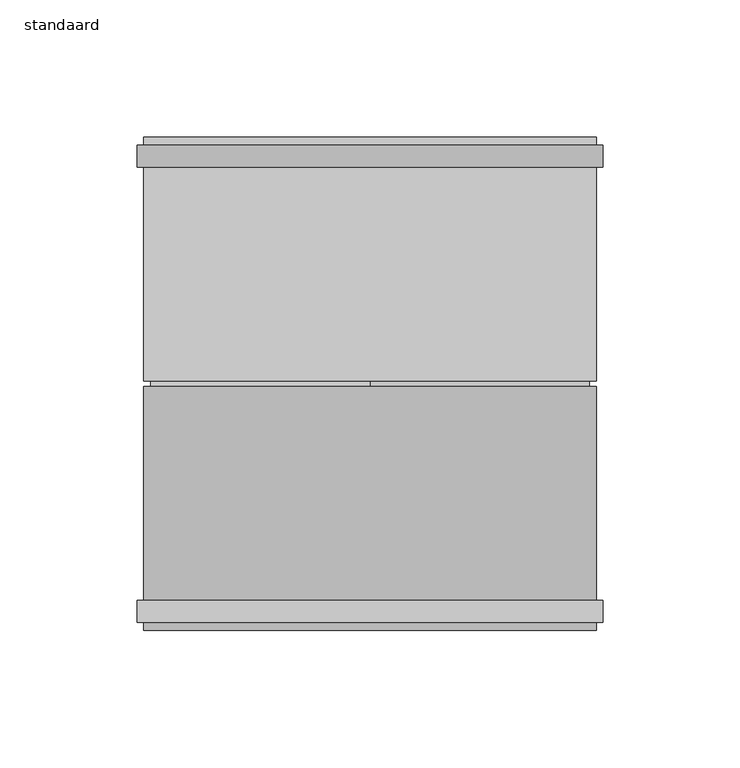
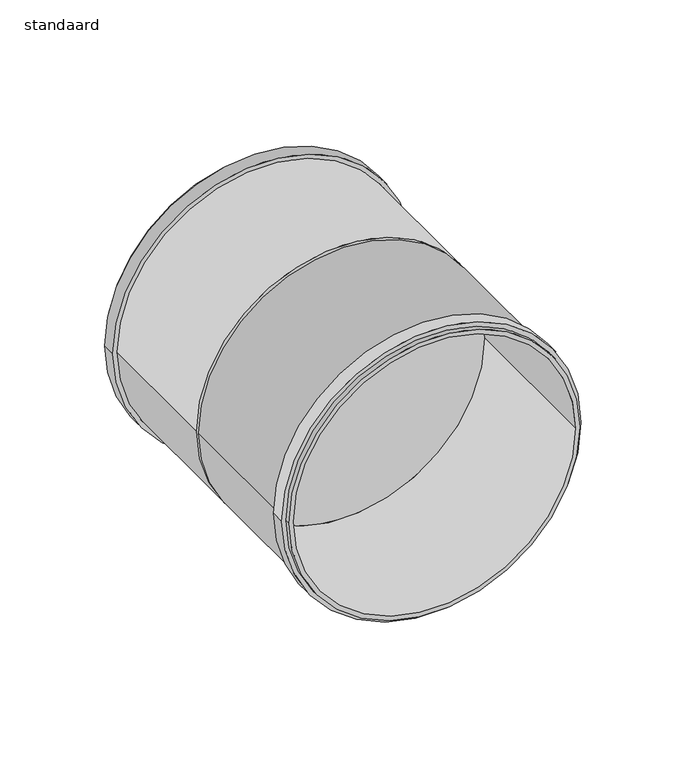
"""IFC4 building model written with IfcOpenShell, lengths in millimetres: pipe fitting geometry, 400_52_Dyka_PP_Dykastil_schuifmof : standaard."""

import ifcopenshell
import ifcopenshell.guid

model = None  # the IFC model being written
_history = None  # IfcOwnerHistory: only IFC2X3 demands one
_inside = {}  # id of a spatial element -> (the spatial element, [elements in it])
_under = {}  # id of a project, library or spatial element -> (it, [spatial elements below it])
_declared = {}  # id of a project -> (the project, [libraries it declares])
_typed = {}  # id of a type object -> (the type object, [elements of that type])
_made_of = {}  # id of a material, layer set ... -> (it, [elements and type objects made of it])


def new_model(schema):
    """Start an empty IFC model of exactly this schema.

    Asked for "IFC4X3", IfcOpenShell would pick the latest addendum, in which some entities
    have other attributes; the version numbers below select the first issue.
    IFC2X3 requires an IfcOwnerHistory on every rooted entity: one is made here for all.
    """
    global model, _history
    if schema == "IFC4X3":
        model = ifcopenshell.file(schema_version=(4, 3, 0, 0))
    else:
        model = ifcopenshell.file(schema=schema)
    _inside.clear()
    _under.clear()
    _declared.clear()
    _typed.clear()
    _made_of.clear()
    _history = None
    if model.schema == "IFC2X3":
        org = make("IfcOrganization", Name="unknown")
        user = make(
            "IfcPersonAndOrganization",
            ThePerson=make("IfcPerson", FamilyName="unknown"),
            TheOrganization=org,
        )
        app = make(
            "IfcApplication",
            ApplicationDeveloper=org,
            Version="unknown",
            ApplicationFullName="unknown",
            ApplicationIdentifier="unknown",
        )
        _history = make(
            "IfcOwnerHistory",
            OwningUser=user,
            OwningApplication=app,
            ChangeAction="ADDED",
            CreationDate=0,
        )
    return model


def make(cls, **values):
    """One entity of the class cls with the attributes given. An attribute that is None is left unset."""
    return model.create_entity(
        cls, **{name: value for name, value in values.items() if value is not None}
    )


def rooted(cls, **values):
    """An entity with a GlobalId (a new one), such as an element, a storey or a relation."""
    return make(cls, GlobalId=ifcopenshell.guid.new(), OwnerHistory=_history, **values)


def si_unit(unit_type, name, prefix=None):
    """IfcSIUnit, for example si_unit("LENGTHUNIT", "METRE", prefix="MILLI")."""
    return make("IfcSIUnit", UnitType=unit_type, Prefix=prefix, Name=name)


def assignment(units):
    """IfcUnitAssignment: the units of a project."""
    return None if units is None else make("IfcUnitAssignment", Units=units)


def point(xyz):
    """IfcCartesianPoint."""
    return None if xyz is None else make("IfcCartesianPoint", Coordinates=xyz)


def direction(xyz):
    """IfcDirection."""
    return None if xyz is None else make("IfcDirection", DirectionRatios=xyz)


def frame(location, z_axis=None, x_axis=None):
    """IfcAxis2Placement3D, a coordinate frame: its origin and axes. An axis left out is left unset."""
    return make(
        "IfcAxis2Placement3D",
        Location=point(location),
        Axis=direction(z_axis),
        RefDirection=direction(x_axis),
    )


def frame_2d(location, x_axis=None):
    """IfcAxis2Placement2D, a coordinate frame in the plane: its origin and x axis."""
    return make(
        "IfcAxis2Placement2D", Location=point(location), RefDirection=direction(x_axis)
    )


def origin():
    """The frame at (0, 0, 0) with its axes left unset."""
    return frame((0.0, 0.0, 0.0))


def origin_2d():
    """The frame at (0, 0) in the plane with its x axis left unset."""
    return frame_2d((0.0, 0.0))


def place(relative_to, where):
    """IfcLocalPlacement: puts the frame where relative to a parent placement (None: the world)."""
    return make(
        "IfcLocalPlacement", PlacementRelTo=relative_to, RelativePlacement=where
    )


def context(
    kind, dimensions, precision=None, world=None, true_north=None, identifier=None
):
    """IfcGeometricRepresentationContext, for example the 3D "Model" context."""
    return make(
        "IfcGeometricRepresentationContext",
        ContextIdentifier=identifier,
        ContextType=kind,
        CoordinateSpaceDimension=dimensions,
        Precision=precision,
        WorldCoordinateSystem=world,
        TrueNorth=true_north,
    )


def project(units=None, contexts=None):
    """IfcProject with its units and contexts."""
    return rooted(
        "IfcProject",
        Name="project",
        RepresentationContexts=contexts,
        UnitsInContext=assignment(units),
    )


def spatial(cls, under=None, at=None, **own):
    """A site, building, storey or space (cls), placed at a placement, below another one or the project."""
    s = rooted(cls, ObjectPlacement=at, **own)
    if under is not None:
        _under.setdefault(under.id(), (under, []))[1].append(s)
    return s


def circle_curve(where, radius):
    """IfcCircle in the frame where."""
    return make("IfcCircle", Position=where, Radius=radius)


def trimmed(basis, trim1, trim2, sense, master):
    """IfcTrimmedCurve: the piece of a basis curve between two trims."""
    return make(
        "IfcTrimmedCurve",
        BasisCurve=basis,
        Trim1=trim1,
        Trim2=trim2,
        SenseAgreement=sense,
        MasterRepresentation=master,
    )


def segment(curve, same_sense, transition):
    """IfcCompositeCurveSegment."""
    return make(
        "IfcCompositeCurveSegment",
        Transition=transition,
        SameSense=same_sense,
        ParentCurve=curve,
    )


def composite_curve(segments, self_intersect=None):
    """IfcCompositeCurve: segments joined end to end."""
    return make("IfcCompositeCurve", Segments=segments, SelfIntersect=self_intersect)


def outline(outer, holes=None, kind="AREA"):
    """IfcArbitraryClosedProfileDef: a profile drawn as a closed curve; with holes, ...WithVoids."""
    if holes is None:
        return make("IfcArbitraryClosedProfileDef", ProfileType=kind, OuterCurve=outer)
    return make(
        "IfcArbitraryProfileDefWithVoids",
        ProfileType=kind,
        OuterCurve=outer,
        InnerCurves=holes,
    )


def extrude(swept, where, along, depth):
    """IfcExtrudedAreaSolid: the profile swept, set in the frame where, extruded along a direction by depth."""
    return make(
        "IfcExtrudedAreaSolid",
        SweptArea=swept,
        Position=where,
        ExtrudedDirection=direction(along),
        Depth=depth,
    )


def shape(context_of_items, identifier, shape_type, items):
    """IfcShapeRepresentation: the items that make up one representation, for example the "Body"."""
    return make(
        "IfcShapeRepresentation",
        ContextOfItems=context_of_items,
        RepresentationIdentifier=identifier,
        RepresentationType=shape_type,
        Items=items,
    )


def source(mapping_origin, context_of_items, identifier, shape_type, items):
    """IfcRepresentationMap: a shape defined once, which mapped items show again and again."""
    return make(
        "IfcRepresentationMap",
        MappingOrigin=mapping_origin,
        MappedRepresentation=shape(context_of_items, identifier, shape_type, items),
    )


def transform(
    local_origin,
    x_axis=None,
    y_axis=None,
    z_axis=None,
    scale=None,
    scale2=None,
    scale3=None,
    uniform=True,
):
    """IfcCartesianTransformationOperator3D, or its non-uniform kind. x_axis, y_axis, z_axis: its Axis1, 2, 3."""
    if uniform:
        return make(
            "IfcCartesianTransformationOperator3D",
            Axis1=direction(x_axis),
            Axis2=direction(y_axis),
            LocalOrigin=point(local_origin),
            Scale=scale,
            Axis3=direction(z_axis),
        )
    return make(
        "IfcCartesianTransformationOperator3DnonUniform",
        Axis1=direction(x_axis),
        Axis2=direction(y_axis),
        LocalOrigin=point(local_origin),
        Scale=scale,
        Axis3=direction(z_axis),
        Scale2=scale2,
        Scale3=scale3,
    )


def mapped(mapping_source, mapping_target):
    """IfcMappedItem: shows the shape of a source again, moved by a transform."""
    return make(
        "IfcMappedItem", MappingSource=mapping_source, MappingTarget=mapping_target
    )


def made_of(thing, what):
    """Note that an element or type object is made of a material, layer set ...; save() writes the relation."""
    if what is not None:
        _made_of.setdefault(what.id(), (what, []))[1].append(thing)
    return thing


def element(
    cls,
    number,
    at=None,
    inside=None,
    cuts=None,
    type_object=None,
    material=None,
    context=None,
    identifier="Body",
    shape_type=None,
    held_by="IfcProductDefinitionShape",
    body=None,
    shapes=None,
    **own,
):
    """One element of the class cls, such as IfcWall. Its Tag is "e" and its number.

    at: its placement. inside: the storey or other place that contains it. cuts: it is an
    opening in that element (IfcRelVoidsElement). A single representation is given by context,
    identifier, shape_type and body (its items); several are given by shapes. held_by: the class
    of the entity that holds the representations. save() writes the other relations.
    """
    e = rooted(cls, Tag="e%d" % number, ObjectPlacement=at, **own)
    if body is not None:
        shapes = [shape(context, identifier, shape_type, body)]
    if shapes is not None:
        e.Representation = make(held_by, Representations=shapes)
    if inside is not None:
        _inside.setdefault(inside.id(), (inside, []))[1].append(e)
    if cuts is not None:
        rooted(
            "IfcRelVoidsElement", RelatingBuildingElement=cuts, RelatedOpeningElement=e
        )
    if type_object is not None:
        _typed.setdefault(type_object.id(), (type_object, []))[1].append(e)
    return made_of(e, material)


def aggregate(whole, parts):
    """IfcRelAggregates: a whole, such as a stair, and the parts it consists of."""
    return rooted("IfcRelAggregates", RelatingObject=whole, RelatedObjects=parts)


def save(model, path):
    """Write the relations noted so far, then the file.

    IfcRelAggregates (storeys below a building ...), IfcRelContainedInSpatialStructure (elements
    in a storey), IfcRelDefinesByType, IfcRelAssociatesMaterial and IfcRelDeclares: one each for
    every whole, place, type object, material and project.
    """
    for whole, parts in _under.values():
        aggregate(whole, parts)
    for where, things in _inside.values():
        rooted(
            "IfcRelContainedInSpatialStructure",
            RelatedElements=things,
            RelatingStructure=where,
        )
    for kind, things in _typed.values():
        rooted("IfcRelDefinesByType", RelatedObjects=things, RelatingType=kind)
    for what, things in _made_of.values():
        rooted("IfcRelAssociatesMaterial", RelatedObjects=things, RelatingMaterial=what)
    for by, libraries in _declared.values():
        rooted("IfcRelDeclares", RelatingContext=by, RelatedDefinitions=libraries)
    model.write(path)


def standaard_f7624639(model_context):
    return source(origin(), model_context, "Body", "SweptSolid", [
        extrude(outline(composite_curve([segment(trimmed(circle_curve(origin_2d(), 85.0), [point((0.0, 85.0))], [point((0.0, -85.0))], False, "CARTESIAN"), True, "CONTINUOUS"), segment(trimmed(circle_curve(origin_2d(), 85.0), [point((0.0, -85.0))], [point((0.0, 85.0))], False, "CARTESIAN"), True, "CONTINUOUS")], self_intersect=False), holes=[composite_curve([segment(trimmed(circle_curve(origin_2d(), 82.5), [point((0.0, 82.5))], [point((0.0, -82.5))], True, "CARTESIAN"), True, "CONTINUOUS"), segment(trimmed(circle_curve(origin_2d(), 82.5), [point((0.0, -82.5))], [point((0.0, 82.5))], True, "CARTESIAN"), True, "CONTINUOUS")], self_intersect=False)]), frame((0.0, -87.0, 0.0), z_axis=(0.0, 1.0, 0.0), x_axis=(0.0, 0.0, 1.0)), (0.0, 0.0, 1.0), 8.0),
        extrude(outline(composite_curve([segment(trimmed(circle_curve(origin_2d(), 85.0), [point((0.0, -85.0))], [point((0.0, 85.0))], False, "CARTESIAN"), True, "CONTINUOUS"), segment(trimmed(circle_curve(origin_2d(), 85.0), [point((0.0, 85.0))], [point((0.0, -85.0))], False, "CARTESIAN"), True, "CONTINUOUS")], self_intersect=False), holes=[composite_curve([segment(trimmed(circle_curve(origin_2d(), 82.5), [point((0.0, -82.5))], [point((0.0, 82.5))], True, "CARTESIAN"), True, "CONTINUOUS"), segment(trimmed(circle_curve(origin_2d(), 82.5), [point((0.0, 82.5))], [point((0.0, -82.5))], True, "CARTESIAN"), True, "CONTINUOUS")], self_intersect=False)]), frame((0.0, 79.0, 0.0), z_axis=(0.0, 1.0, 0.0), x_axis=(0.0, 0.0, 1.0)), (0.0, 0.0, 1.0), 8.0),
        extrude(outline(composite_curve([segment(trimmed(circle_curve(origin_2d(), 82.5), [point((0.0, 82.5))], [point((0.0, -82.5))], False, "CARTESIAN"), True, "CONTINUOUS"), segment(trimmed(circle_curve(origin_2d(), 82.5), [point((0.0, -82.5))], [point((0.0, 82.5))], False, "CARTESIAN"), True, "CONTINUOUS")], self_intersect=False), holes=[composite_curve([segment(trimmed(circle_curve(origin_2d(), 80.0), [point((0.0, 80.0))], [point((0.0, -80.0))], True, "CARTESIAN"), True, "CONTINUOUS"), segment(trimmed(circle_curve(origin_2d(), 80.0), [point((0.0, -80.0))], [point((0.0, 80.0))], True, "CARTESIAN"), True, "CONTINUOUS")], self_intersect=False)]), frame((0.0, 1.0, 0.0), z_axis=(0.0, 1.0, 0.0), x_axis=(0.0, 0.0, 1.0)), (0.0, 0.0, 1.0), 89.0),
        extrude(outline(composite_curve([segment(trimmed(circle_curve(origin_2d(), 82.5), [point((0.0, -82.5))], [point((0.0, 82.5))], False, "CARTESIAN"), True, "CONTINUOUS"), segment(trimmed(circle_curve(origin_2d(), 82.5), [point((0.0, 82.5))], [point((0.0, -82.5))], False, "CARTESIAN"), True, "CONTINUOUS")], self_intersect=False), holes=[composite_curve([segment(trimmed(circle_curve(origin_2d(), 80.0), [point((0.0, -80.0))], [point((0.0, 80.0))], True, "CARTESIAN"), True, "CONTINUOUS"), segment(trimmed(circle_curve(origin_2d(), 80.0), [point((0.0, 80.0))], [point((0.0, -80.0))], True, "CARTESIAN"), True, "CONTINUOUS")], self_intersect=False)]), frame((0.0, -90.0, 0.0), z_axis=(0.0, 1.0, 0.0), x_axis=(0.0, 0.0, 1.0)), (0.0, 0.0, 1.0), 89.0),
        extrude(outline(composite_curve([segment(trimmed(circle_curve(origin_2d(), 80.0), [point((80.0, 0.0))], [point((0.0, -80.0))], False, "CARTESIAN"), True, "CONTINUOUS"), segment(trimmed(circle_curve(origin_2d(), 80.0), [point((0.0, -80.0))], [point((-80.0, 0.0))], False, "CARTESIAN"), True, "CONTINUOUS"), segment(trimmed(circle_curve(origin_2d(), 80.0), [point((-80.0, 0.0))], [point((0.0, 80.0))], False, "CARTESIAN"), True, "CONTINUOUS"), segment(trimmed(circle_curve(origin_2d(), 80.0), [point((0.0, 80.0))], [point((80.0, 0.0))], False, "CARTESIAN"), True, "CONTINUOUS")], self_intersect=False)), frame((0.0, -1.0, 0.0), z_axis=(0.0, 1.0, 0.0), x_axis=(0.0, 0.0, 1.0)), (0.0, 0.0, 1.0), 2.0),
    ])


if __name__ == "__main__":
    model = new_model("IFC4")
    model_context = context("Model", 3, world=origin())
    ifc_project = project(units=[si_unit("LENGTHUNIT", "METRE", prefix="MILLI")], contexts=[model_context])
    site = spatial("IfcSite", under=ifc_project)
    building = spatial("IfcBuilding", under=site)
    placement = place(None, origin())
    standaard_shape = standaard_f7624639(model_context)
    element("IfcPipeFitting", 1, ObjectType="400_52_Dyka_PP_Dykastil_schuifmof : standaard", at=placement, inside=building, context=model_context, shape_type="MappedRepresentation", body=[
        mapped(standaard_shape, transform((0.0, 0.0, 0.0), x_axis=(1.0, 0.0, 0.0), y_axis=(0.0, 1.0, 0.0), z_axis=(0.0, 0.0, 1.0))),
    ])
    save(model, "model.ifc")
